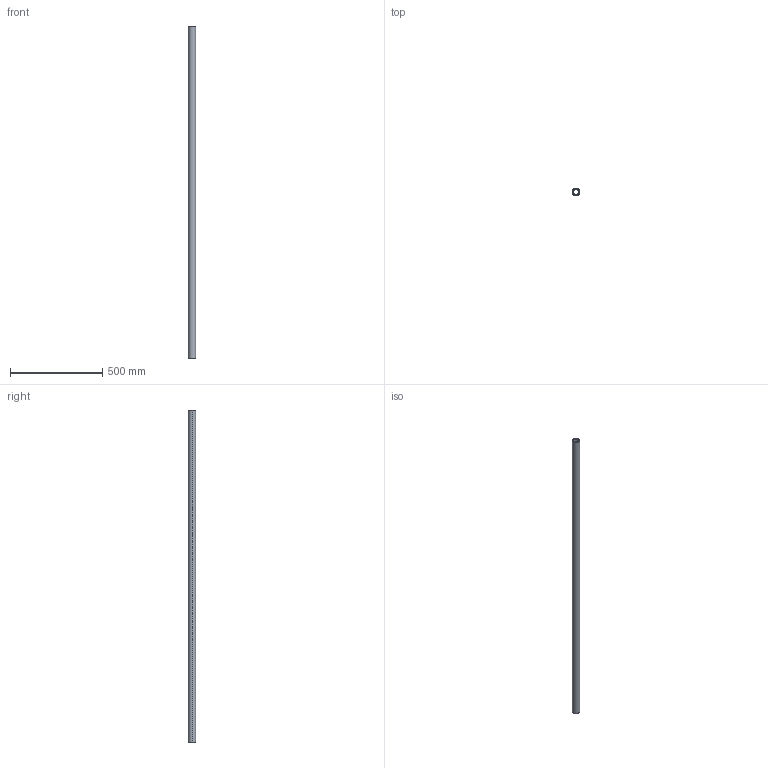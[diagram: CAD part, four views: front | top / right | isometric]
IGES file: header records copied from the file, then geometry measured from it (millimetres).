
Start section: SolidWorks IGES file using analytic representation for surfaces
Global section: file name: C:\Users\IanO\Desktop\L1771_v2\L1771.40_v2\L1771.40_v2_20230705_IGES\L1771.40-1800.igs; native system: SolidWorks 2019; preprocessor: SolidWorks 2019; author: IanO; date: 230705.160834; units: millimetre
Bounding box: 40 x 40 x 1800 mm (x, y, z)
Surface area: 385812.7 mm2 (no closed solid volume)
Topology: 0 solids, 0 shells, 6 faces, 272 edges, 272 vertices
Faces by surface type: revolution 4, bspline 2
